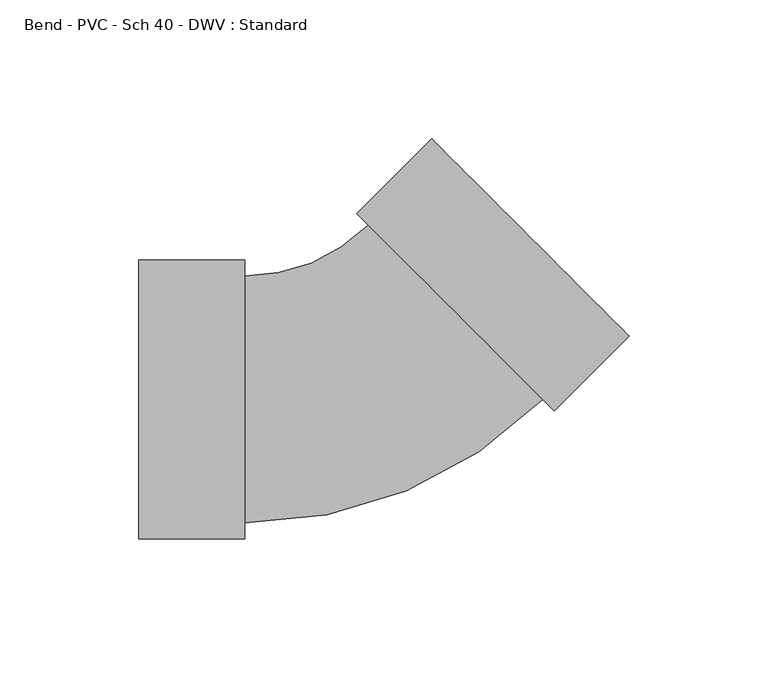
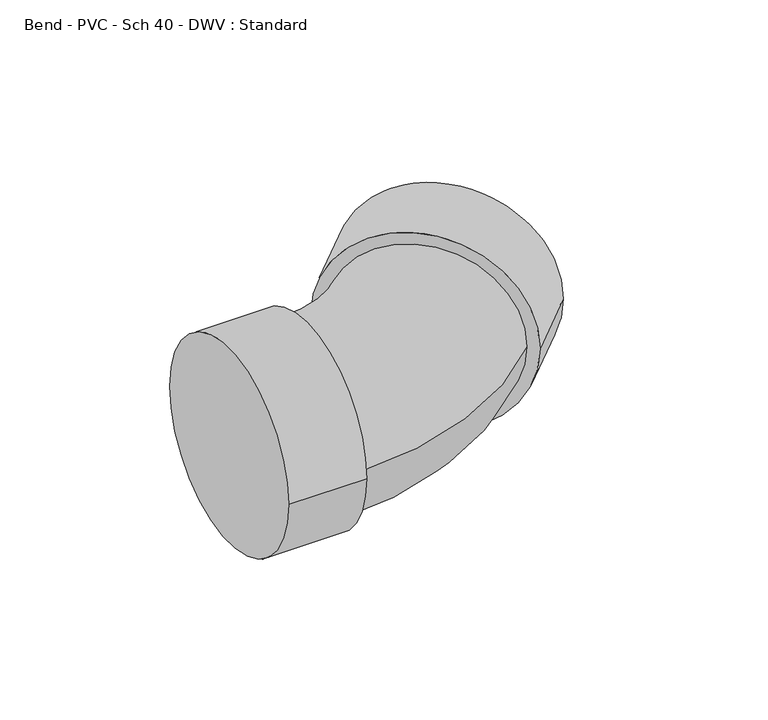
"""IFC4 building model written with IfcOpenShell, lengths in millimetres: pipe fitting geometry, Bend - PVC - Sch 40 - DWV : Standard."""

from ifc_helpers import new_model, si_unit, point, frame, origin, place, context, project, spatial, circle_curve, ellipse_curve, trimmed, source, transform, mapped, element, save
from ifc_brep_helpers import plane_surface, cylinder_surface, revolved_surface, advanced_brep


def bend_pvc_sch_40_dwv_standard_b1bc43c7(model_context):
    return source(origin(), model_context, "Body", "AdvancedBrep", [
        advanced_brep(
        [(-82.55, -50.2666, 0.0), (-82.55, 50.2666, 0.0), (-44.45, -50.2666, 0.0), (-44.45, 50.2666, 0.0), (-44.45, -44.45, 0.0), (-44.45, 44.45, 0.0), (0.0028271, 62.8617928, 0.0), (62.8617928, -0.0028271, 0.0), (66.9745651, -4.1159694, 0.0), (-4.1099452, 66.9749351, 0.0), (93.9165451, 22.8235873, 0.0), (22.8320347, 93.9144918, 0.0)],
        [
            (0, 1, circle_curve(frame((-82.55, 0.0, 0.0), z_axis=(-1.0, 0.0, 0.0), x_axis=(0.0, 1.0, 0.0)), 50.2666)),
            (1, 0, circle_curve(frame((-82.55, 0.0, 0.0), z_axis=(-1.0, 0.0, 0.0), x_axis=(0.0, 1.0, 0.0)), 50.2666)),
            (2, 3, circle_curve(frame((-44.45, 0.0, 0.0), z_axis=(1.0, 0.0, 0.0), x_axis=(0.0, 1.0, 0.0)), 50.2666)),
            (3, 2, circle_curve(frame((-44.45, 0.0, 0.0), z_axis=(1.0, 0.0, 0.0), x_axis=(0.0, 1.0, 0.0)), 50.2666)),
            (4, 5, circle_curve(frame((-44.45, 0.0, 0.0), z_axis=(-1.0, 0.0, 0.0), x_axis=(0.0, 1.0, 0.0)), 44.45)),
            (5, 4, circle_curve(frame((-44.45, 0.0, 0.0), z_axis=(-1.0, 0.0, 0.0), x_axis=(0.0, 1.0, 0.0)), 44.45)),
            (0, 2),
            (3, 1),
            (6, 5, circle_curve(frame((-44.45, 107.3186185, 0.0), z_axis=(0.0, 0.0, -1.0), x_axis=(0.0, -1.0, 0.0)), 62.8686185)),
            (4, 7, circle_curve(frame((-44.45, 107.3186185, 0.0), z_axis=(0.0, 0.0, 1.0), x_axis=(0.0, -1.0, 0.0)), 151.7686185)),
            (7, 6, circle_curve(frame((31.4323099, 31.4294828, 0.0), z_axis=(-0.7071385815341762, -0.7070749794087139, 0.0), x_axis=(-0.7070749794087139, 0.7071385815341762, 0.0)), 44.45)),
            (6, 7, circle_curve(frame((31.4323099, 31.4294828, 0.0), z_axis=(-0.7071385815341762, -0.7070749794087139, 0.0), x_axis=(-0.7070749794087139, 0.7071385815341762, 0.0)), 44.45)),
            (8, 9, circle_curve(frame((31.4323099, 31.4294828, 0.0), z_axis=(-0.7071385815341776, -0.7070749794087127, 0.0), x_axis=(-0.7070749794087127, 0.7071385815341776, 0.0)), 50.2666)),
            (9, 8, circle_curve(frame((31.4323099, 31.4294828, 0.0), z_axis=(-0.7071385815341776, -0.7070749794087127, 0.0), x_axis=(-0.7070749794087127, 0.7071385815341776, 0.0)), 50.2666)),
            (10, 11, circle_curve(frame((58.3742899, 58.3690396, 0.0), z_axis=(0.7071385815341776, 0.7070749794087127, 0.0), x_axis=(-0.7070749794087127, 0.7071385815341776, 0.0)), 50.2666)),
            (11, 10, circle_curve(frame((58.3742899, 58.3690396, 0.0), z_axis=(0.7071385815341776, 0.7070749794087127, 0.0), x_axis=(-0.7070749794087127, 0.7071385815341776, 0.0)), 50.2666)),
            (8, 10),
            (11, 9),
        ],
        [
            plane_surface(frame((-82.55, 0.0, 0.0), z_axis=(-1.0, 0.0, 0.0), x_axis=(0.0, 0.0, 1.0))),
            plane_surface(frame((-44.45, 0.0, 0.0), z_axis=(1.0, 0.0, 0.0), x_axis=(0.0, 0.0, 1.0))),
            cylinder_surface(frame((-82.55, 0.0, 0.0), z_axis=(-1.0, 0.0, 0.0), x_axis=(0.0, 1.0, 0.0)), 50.2666),
            revolved_surface(trimmed(ellipse_curve(frame((-44.45, 0.0, 0.0), z_axis=(-1.0, 0.0, 0.0), x_axis=(0.0, 1.0, 0.0)), 44.45, 44.45), [point((-44.45, -44.45, 0.0))], [point((-44.45, 44.45, 0.0))], True, "CARTESIAN"), (-44.45, 107.3186185, 0.0), (0.0, 0.0, 1.0)),
            revolved_surface(trimmed(ellipse_curve(frame((-44.45, 0.0, 0.0), z_axis=(-1.0, 0.0, 0.0), x_axis=(0.0, 1.0, 0.0)), 44.45, 44.45), [point((-44.45, 44.45, 0.0))], [point((-44.45, -44.45, 0.0))], True, "CARTESIAN"), (-44.45, 107.3186185, 0.0), (0.0, 0.0, 1.0)),
            plane_surface(frame((31.4323099, 31.4294828, 0.0), z_axis=(-0.7071385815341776, -0.7070749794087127, 0.0), x_axis=(0.0, 0.0, 1.0))),
            plane_surface(frame((58.3742899, 58.3690396, 0.0), z_axis=(0.7071385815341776, 0.7070749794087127, 0.0), x_axis=(0.0, 0.0, 1.0))),
            cylinder_surface(frame((31.4323099, 31.4294828, 0.0), z_axis=(-0.7071385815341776, -0.7070749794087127, 0.0), x_axis=(-0.7070749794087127, 0.7071385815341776, 0.0)), 50.2666),
        ],
        [
            (0, [[1, 2]]),
            (1, [[3, 4], [5, 6]]),
            (2, [[-1, 7, -4, 8]]),
            (2, [[-2, -8, -3, -7]]),
            (3, [[9, -5, 10, 11]]),
            (4, [[-9, 12, -10, -6]]),
            (5, [[13, 14], [-11, -12]]),
            (6, [[15, 16]]),
            (7, [[-13, 17, -16, 18]]),
            (7, [[-14, -18, -15, -17]]),
        ],
    ),
    ])


if __name__ == "__main__":
    model = new_model("IFC4")
    model_context = context("Model", 3, world=origin())
    ifc_project = project(units=[si_unit("LENGTHUNIT", "METRE", prefix="MILLI")], contexts=[model_context])
    site = spatial("IfcSite", under=ifc_project)
    building = spatial("IfcBuilding", under=site)
    placement = place(None, origin())
    bend_pvc_sch_40_dwv_standard_shape = bend_pvc_sch_40_dwv_standard_b1bc43c7(model_context)
    element("IfcPipeFitting", 1, ObjectType="Bend - PVC - Sch 40 - DWV : Standard", at=placement, inside=building, context=model_context, shape_type="MappedRepresentation", body=[
        mapped(bend_pvc_sch_40_dwv_standard_shape, transform((0.0, 0.0, 0.0), x_axis=(1.0, 0.0, 0.0), y_axis=(0.0, 1.0, 0.0), z_axis=(0.0, 0.0, 1.0))),
    ])
    save(model, "model.ifc")
